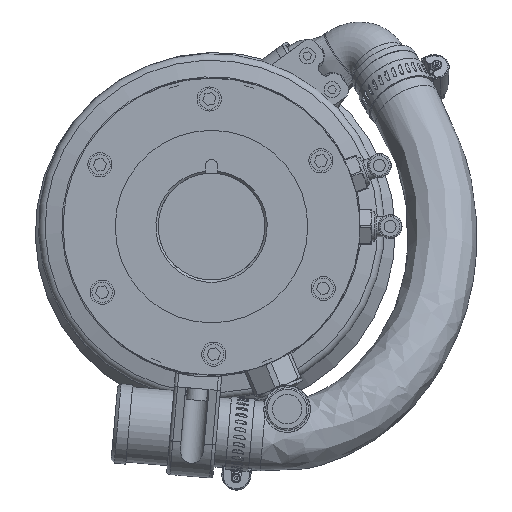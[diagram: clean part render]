
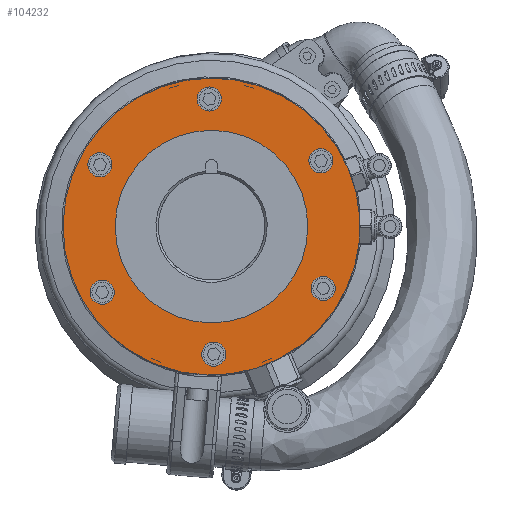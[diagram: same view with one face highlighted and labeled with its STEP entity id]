
A CAD part, front view. The second image highlights one B-rep face of the part: STEP entity #104232.
In plain terms, the highlighted planar face has unit normal (0, -1, 0).
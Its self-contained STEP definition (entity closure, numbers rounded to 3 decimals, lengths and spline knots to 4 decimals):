
#94 = CARTESIAN_POINT ( 'NONE',  ( 0., 0.4375, 0.15 ) ) ;
#868 = CARTESIAN_POINT ( 'NONE',  ( 1.5033, 0.4375, -2.8457 ) ) ;
#1709 = DIRECTION ( 'NONE',  ( 0., 1., 0. ) ) ;
#2158 = AXIS2_PLACEMENT_3D ( 'NONE', #136599, #112677, #5998 ) ;
#4762 = AXIS2_PLACEMENT_3D ( 'NONE', #162655, #136354, #96161 ) ;
#5998 = DIRECTION ( 'NONE',  ( 0., 0., -1. ) ) ;
#12129 = EDGE_CURVE ( 'NONE', #80959, #80959, #41319, .T. ) ;
#13507 = CARTESIAN_POINT ( 'NONE',  ( 1.5033, 0.4375, -2.6833 ) ) ;
#13734 = VERTEX_POINT ( 'NONE', #77069 ) ;
#16793 = DIRECTION ( 'NONE',  ( 0., -1., 0. ) ) ;
#20107 = DIRECTION ( 'NONE',  ( 0., 0., -1. ) ) ;
#24177 = EDGE_LOOP ( 'NONE', ( #53777 ) ) ;
#25580 = EDGE_CURVE ( 'NONE', #128769, #128769, #137332, .T. ) ;
#26704 = FACE_BOUND ( 'NONE', #88534, .T. ) ;
#28091 = VERTEX_POINT ( 'NONE', #94 ) ;
#31621 = EDGE_CURVE ( 'NONE', #55730, #55730, #159479, .T. ) ;
#31755 = DIRECTION ( 'NONE',  ( 0., -1., 0. ) ) ;
#31971 = DIRECTION ( 'NONE',  ( 0., 0., -1. ) ) ;
#32396 = DIRECTION ( 'NONE',  ( 0., 0., -1. ) ) ;
#32547 = CARTESIAN_POINT ( 'NONE',  ( -0.03, 0.4375, -0.1315 ) ) ;
#32848 = FACE_BOUND ( 'NONE', #37147, .T. ) ;
#37147 = EDGE_LOOP ( 'NONE', ( #61389 ) ) ;
#39859 = DIRECTION ( 'NONE',  ( 0., 1., 0. ) ) ;
#41319 = CIRCLE ( 'NONE', #75974, 0.1624 ) ;
#41892 = ORIENTED_EDGE ( 'NONE', *, *, #93463, .F. ) ;
#41917 = ORIENTED_EDGE ( 'NONE', *, *, #151272, .F. ) ;
#45950 = DIRECTION ( 'NONE',  ( 0., -1., 0. ) ) ;
#47183 = VERTEX_POINT ( 'NONE', #169817 ) ;
#51189 = CIRCLE ( 'NONE', #4762, 2. ) ;
#53653 = DIRECTION ( 'NONE',  ( 0., 0., 1. ) ) ;
#53777 = ORIENTED_EDGE ( 'NONE', *, *, #96399, .F. ) ;
#55073 = CARTESIAN_POINT ( 'NONE',  ( 0., 0.4375, -1.85 ) ) ;
#55730 = VERTEX_POINT ( 'NONE', #146624 ) ;
#57407 = VERTEX_POINT ( 'NONE', #147552 ) ;
#58000 = FACE_BOUND ( 'NONE', #100549, .T. ) ;
#61389 = ORIENTED_EDGE ( 'NONE', *, *, #158952, .F. ) ;
#62301 = AXIS2_PLACEMENT_3D ( 'NONE', #32547, #45950, #31971 ) ;
#64264 = CARTESIAN_POINT ( 'NONE',  ( -0.03, 0.4375, -0.2939 ) ) ;
#69143 = ORIENTED_EDGE ( 'NONE', *, *, #25580, .F. ) ;
#75315 = AXIS2_PLACEMENT_3D ( 'NONE', #93861, #1709, #53653 ) ;
#75974 = AXIS2_PLACEMENT_3D ( 'NONE', #113995, #85469, #32396 ) ;
#77069 = CARTESIAN_POINT ( 'NONE',  ( 0.03, 0.4375, -3.7309 ) ) ;
#78885 = FACE_BOUND ( 'NONE', #138872, .T. ) ;
#80040 = CIRCLE ( 'NONE', #62301, 0.1624 ) ;
#80959 = VERTEX_POINT ( 'NONE', #120383 ) ;
#85469 = DIRECTION ( 'NONE',  ( 0., -1., 0. ) ) ;
#85982 = CARTESIAN_POINT ( 'NONE',  ( 0.03, 0.4375, -3.5685 ) ) ;
#88534 = EDGE_LOOP ( 'NONE', ( #41892 ) ) ;
#89262 = FACE_BOUND ( 'NONE', #125586, .T. ) ;
#92561 = CARTESIAN_POINT ( 'NONE',  ( 1.4733, 0.4375, -0.9648 ) ) ;
#93463 = EDGE_CURVE ( 'NONE', #13734, #13734, #138634, .T. ) ;
#93618 = EDGE_CURVE ( 'NONE', #47183, #47183, #97019, .T. ) ;
#93861 = CARTESIAN_POINT ( 'NONE',  ( 0., 0.4375, -1.85 ) ) ;
#94248 = AXIS2_PLACEMENT_3D ( 'NONE', #55073, #39859, #133176 ) ;
#96161 = DIRECTION ( 'NONE',  ( 0., 0., 1. ) ) ;
#96399 = EDGE_CURVE ( 'NONE', #101378, #101378, #80040, .T. ) ;
#97019 = CIRCLE ( 'NONE', #75315, 1. ) ;
#100549 = EDGE_LOOP ( 'NONE', ( #161717 ) ) ;
#101378 = VERTEX_POINT ( 'NONE', #64264 ) ;
#104232 = ADVANCED_FACE ( 'NONE', ( #32848, #26704, #89262, #58000, #145629, #78885, #133073, #149781 ), #119768, .F. ) ;
#105440 = ORIENTED_EDGE ( 'NONE', *, *, #93618, .T. ) ;
#106211 = DIRECTION ( 'NONE',  ( 0., -1., 0. ) ) ;
#112677 = DIRECTION ( 'NONE',  ( 0., -1., 0. ) ) ;
#113995 = CARTESIAN_POINT ( 'NONE',  ( -1.5033, 0.4375, -1.0167 ) ) ;
#119160 = EDGE_LOOP ( 'NONE', ( #105440 ) ) ;
#119768 = PLANE ( 'NONE',  #94248 ) ;
#120383 = CARTESIAN_POINT ( 'NONE',  ( -1.5033, 0.4375, -1.1791 ) ) ;
#124699 = EDGE_LOOP ( 'NONE', ( #41917 ) ) ;
#125586 = EDGE_LOOP ( 'NONE', ( #69143 ) ) ;
#125606 = AXIS2_PLACEMENT_3D ( 'NONE', #85982, #31755, #20107 ) ;
#128769 = VERTEX_POINT ( 'NONE', #868 ) ;
#131395 = AXIS2_PLACEMENT_3D ( 'NONE', #92561, #16793, #163679 ) ;
#132986 = DIRECTION ( 'NONE',  ( 0., 0., -1. ) ) ;
#133073 = FACE_OUTER_BOUND ( 'NONE', #124699, .T. ) ;
#133176 = DIRECTION ( 'NONE',  ( 0., 0., 1. ) ) ;
#136354 = DIRECTION ( 'NONE',  ( 0., 1., 0. ) ) ;
#136599 = CARTESIAN_POINT ( 'NONE',  ( -1.4733, 0.4375, -2.7352 ) ) ;
#137332 = CIRCLE ( 'NONE', #152100, 0.1624 ) ;
#138634 = CIRCLE ( 'NONE', #125606, 0.1624 ) ;
#138872 = EDGE_LOOP ( 'NONE', ( #172651 ) ) ;
#145629 = FACE_BOUND ( 'NONE', #24177, .T. ) ;
#146624 = CARTESIAN_POINT ( 'NONE',  ( 1.4733, 0.4375, -1.1272 ) ) ;
#147552 = CARTESIAN_POINT ( 'NONE',  ( -1.4733, 0.4375, -2.8976 ) ) ;
#149781 = FACE_BOUND ( 'NONE', #119160, .T. ) ;
#151272 = EDGE_CURVE ( 'NONE', #28091, #28091, #51189, .T. ) ;
#152100 = AXIS2_PLACEMENT_3D ( 'NONE', #13507, #106211, #132986 ) ;
#158952 = EDGE_CURVE ( 'NONE', #57407, #57407, #168683, .T. ) ;
#159479 = CIRCLE ( 'NONE', #131395, 0.1624 ) ;
#161717 = ORIENTED_EDGE ( 'NONE', *, *, #31621, .F. ) ;
#162655 = CARTESIAN_POINT ( 'NONE',  ( 0., 0.4375, -1.85 ) ) ;
#163679 = DIRECTION ( 'NONE',  ( 0., 0., -1. ) ) ;
#168683 = CIRCLE ( 'NONE', #2158, 0.1624 ) ;
#169817 = CARTESIAN_POINT ( 'NONE',  ( 0., 0.4375, -0.85 ) ) ;
#172651 = ORIENTED_EDGE ( 'NONE', *, *, #12129, .F. ) ;
